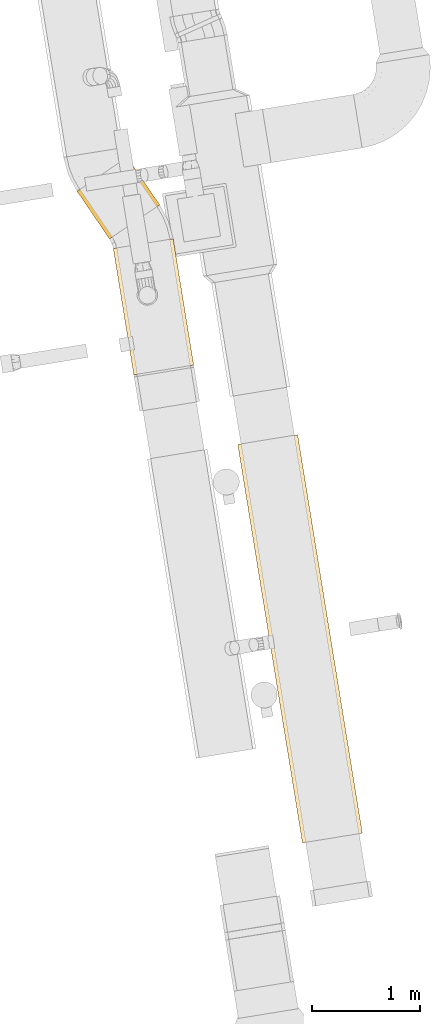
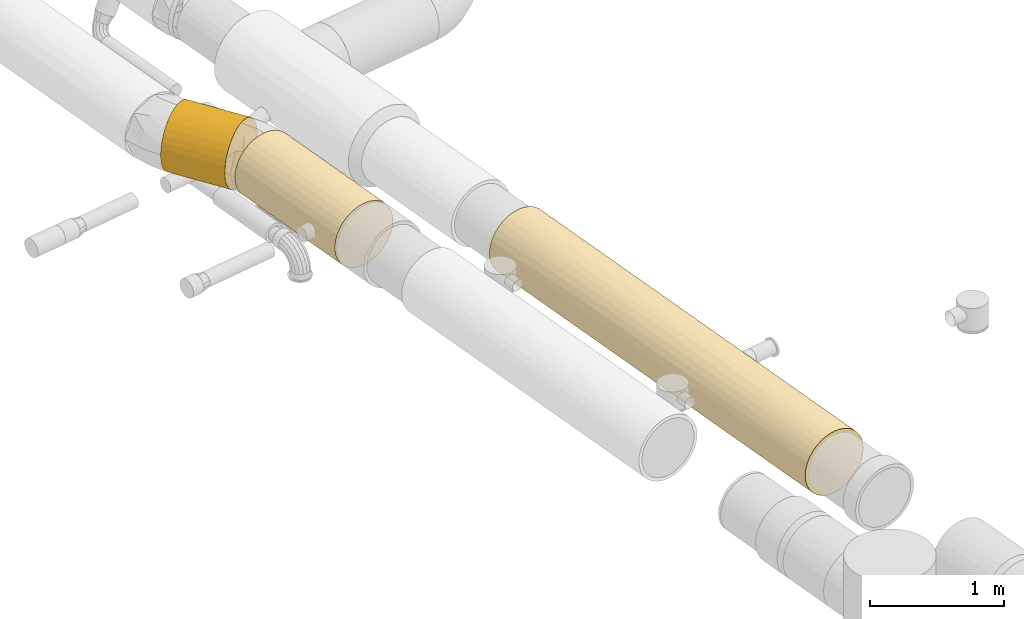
# One storey, part 3 of 39: 3 coverings.
"""IFC2X3 building model written with IfcOpenShell, lengths in millimetres."""

from ifc_helpers import new_model, entity, si_unit, converted_unit, derived_unit, direction, frame, origin, origin_with_axes, place, context, subcontext, project, spatial, faceted_brep, type_object, element, save


model = new_model("IFC2X3")

# Units and contexts
plan_context = context("Plan", 3, precision=1e-05, world=origin_with_axes())
model_context = context("Model", 3, precision=0.01, world=origin(), true_north=direction((6.12323399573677e-17, 1.0)))
body_context = subcontext(model_context, "Body", "Model", "MODEL_VIEW")
ifc_project = project(units=[converted_unit("PLANEANGLEUNIT", "DEGREE", entity("IfcPositiveLengthMeasure", 0.0174532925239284), si_unit("PLANEANGLEUNIT", "RADIAN"), dimensions=[0, 0, 0, 0, 0, 0, 0]), si_unit("AREAUNIT", "SQUARE_METRE"), si_unit("LENGTHUNIT", "METRE", prefix="MILLI"), si_unit("MASSUNIT", "GRAM", prefix="KILO"), si_unit("POWERUNIT", "WATT"), si_unit("PRESSUREUNIT", "PASCAL", prefix="KILO"), si_unit("FORCEUNIT", "NEWTON", prefix="KILO"), si_unit("ELECTRICVOLTAGEUNIT", "VOLT"), si_unit("ELECTRICCURRENTUNIT", "AMPERE"), si_unit("THERMODYNAMICTEMPERATUREUNIT", "DEGREE_CELSIUS"), si_unit("TIMEUNIT", "SECOND"), si_unit("VOLUMEUNIT", "CUBIC_METRE"), derived_unit("LINEARVELOCITYUNIT", [(si_unit("LENGTHUNIT", "METRE"), 1), (si_unit("TIMEUNIT", "SECOND"), -1)]), derived_unit("VOLUMETRICFLOWRATEUNIT", [(si_unit("VOLUMEUNIT", "CUBIC_METRE"), 1), (si_unit("TIMEUNIT", "SECOND"), -1)]), derived_unit("THERMALTRANSMITTANCEUNIT", [(si_unit("POWERUNIT", "WATT"), 1), (si_unit("THERMODYNAMICTEMPERATUREUNIT", "KELVIN"), -1), (si_unit("AREAUNIT", "SQUARE_METRE"), -1)]), derived_unit("SOUNDPRESSUREUNIT", [(si_unit("PRESSUREUNIT", "PASCAL"), 1)])], contexts=[model_context, plan_context])

# Site, building, storey
site_placement = place(None, frame((-0.00071070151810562, 0.00438415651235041, 0.0), z_axis=(0.0, 0.0, 1.0), x_axis=(-0.160236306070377, 0.987078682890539, 0.0)))
site = spatial("IfcSite", under=ifc_project, at=site_placement, Name="Default", CompositionType="ELEMENT")
building_placement = place(site_placement, origin_with_axes())
building = spatial("IfcBuilding", under=site, at=building_placement, CompositionType="ELEMENT")
storey_placement = place(building_placement, frame((0.0, 0.0, 58999.9999999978), z_axis=(0.0, 0.0, 1.0), x_axis=(1.0, 0.0, 0.0)))
storey = spatial("IfcBuildingStorey", under=building, at=storey_placement, Name="Nivå F", CompositionType="ELEMENT", Elevation=58999.9999999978)

# Coverings
covering_type = type_object("IfcCoveringType", Name="Duct Insulation:EI 60-30", PredefinedType="INSULATION")
covering_1_placement = place(storey_placement, frame((766821.119644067, -503621.603887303, 2848.40426923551), z_axis=(0.0, 0.0, 1.0), x_axis=(1.0, 0.0, 0.0)))
element("IfcCovering", 1, at=covering_1_placement, inside=storey, type_object=covering_type, Name="Duct Insulation:EI 60-30", ObjectType="Duct Insulation:EI 60-30", PredefinedType="INSULATION", context=body_context, shape_type="Brep", body=[
    faceted_brep([(0.0, 48.7837807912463, 126.035606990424), (0.0, 22.9090031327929, 174.443911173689), (0.0, 6.97539372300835, 226.969982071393), (0.0, 1.59527223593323, 281.595272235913), (0.0, 6.97539372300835, 336.220562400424), (0.0, 22.9090031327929, 388.746633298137), (0.0, 48.7837807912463, 437.154937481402), (0.0, 83.6053735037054, 479.585170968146), (0.0, 126.035606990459, 514.406763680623), (0.0, 174.443911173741, 540.281541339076), (0.0, 226.969982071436, 556.215150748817), (0.0, 281.595272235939, 561.59527223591), (0.0, 336.220562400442, 556.215150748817), (0.0, 388.746633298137, 540.281541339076), (0.0, 437.154937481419, 514.406763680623), (0.0, 479.585170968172, 479.585170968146), (0.0, 514.406763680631, 437.154937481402), (0.0, 540.281541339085, 388.746633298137), (0.0, 556.215150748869, 336.220562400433), (0.0, 561.595272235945, 281.595272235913), (0.0, 556.215150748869, 226.969982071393), (0.0, 540.281541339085, 174.443911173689), (0.0, 514.406763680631, 126.035606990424), (0.0, 479.585170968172, 83.6053735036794), (0.0, 437.154937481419, 48.783780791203), (0.0, 388.746633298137, 22.9090031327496), (0.0, 336.220562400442, 6.97539372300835), (0.0, 281.595272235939, 1.5952722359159), (0.0, 226.969982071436, 6.97539372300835), (0.0, 174.443911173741, 22.9090031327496), (0.0, 126.035606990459, 48.783780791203), (0.0, 83.6053735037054, 83.6053735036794), (3721.2499999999, 22.9090031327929, 388.746633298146), (3721.2499999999, 6.97539372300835, 336.220562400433), (3721.2499999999, 1.59527223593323, 281.595272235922), (3721.2499999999, 6.97539372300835, 226.969982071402), (3721.2499999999, 22.9090031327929, 174.443911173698), (3721.2499999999, 48.7837807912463, 126.035606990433), (3721.2499999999, 83.6053735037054, 83.6053735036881), (3721.2499999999, 126.035606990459, 48.7837807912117), (3721.2499999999, 174.443911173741, 22.9090031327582), (3721.2499999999, 226.969982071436, 6.97539372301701), (3721.2499999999, 281.595272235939, 1.59527223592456), (3721.2499999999, 336.220562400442, 6.97539372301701), (3721.2499999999, 388.746633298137, 22.9090031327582), (3721.2499999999, 437.154937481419, 48.7837807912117), (3721.2499999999, 479.585170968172, 83.6053735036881), (3721.2499999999, 514.406763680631, 126.035606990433), (3721.2499999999, 540.281541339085, 174.443911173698), (3721.2499999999, 556.215150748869, 226.969982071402), (3721.2499999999, 561.595272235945, 281.595272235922), (3721.2499999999, 556.215150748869, 336.220562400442), (3721.2499999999, 540.281541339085, 388.746633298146), (3721.2499999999, 514.406763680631, 437.15493748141), (3721.2499999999, 479.585170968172, 479.585170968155), (3721.2499999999, 437.154937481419, 514.406763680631), (3721.2499999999, 388.746633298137, 540.281541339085), (3721.2499999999, 336.220562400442, 556.215150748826), (3721.2499999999, 281.595272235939, 561.595272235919), (3721.2499999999, 226.969982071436, 556.215150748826), (3721.2499999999, 174.443911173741, 540.281541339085), (3721.2499999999, 126.035606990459, 514.406763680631), (3721.2499999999, 83.6053735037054, 479.585170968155), (3721.2499999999, 48.7837807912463, 437.15493748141), (1021.31308704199, 549.538565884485, 200.315561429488), (1384.15433010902, 561.595272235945, 281.595272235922), (1968.42825523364, 554.408031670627, 218.56196128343), (692.077165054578, 561.595272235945, 281.595272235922), (817.757672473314, 362.874981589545, 13.6519781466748), (692.077177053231, 281.595272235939, 1.5952722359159), (2841.50995897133, 553.570094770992, 215.039311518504), (2699.09067671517, 528.53322574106, 149.604184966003), (1384.15435410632, 281.595272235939, 1.5952722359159), (1168.55290291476, 281.595272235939, 1.5952722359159), (991.208389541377, 528.42696877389, 149.405584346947), (2847.09679138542, 349.273064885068, 9.89743201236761), (3029.17153991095, 281.595272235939, 1.5952722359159), (2552.70217705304, 281.595272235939, 1.5952722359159), (2579.82859564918, 413.586358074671, 34.6573179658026), (2771.91487959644, 483.230905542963, 87.3195110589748), (899.696889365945, 498.038198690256, 103.965152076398), (1860.62500055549, 498.03819831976, 103.965151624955), (1793.47587816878, 455.500831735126, 62.1485671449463), (1057.08565661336, 457.218431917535, 63.5207304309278), (662.545203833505, 416.171212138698, 36.0564435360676), (1389.54662866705, 413.586358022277, 34.6573179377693), (1655.8649214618, 533.474208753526, 159.296452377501), (2552.70216505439, 561.595272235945, 281.595272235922), (1702.58995833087, 349.550022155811, 9.96656984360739), (2337.10580582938, 281.595272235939, 1.5952722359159), (2699.93689830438, 200.31556239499, 13.6519782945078), (665.54879138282, 106.401013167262, 63.1760157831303), (879.740031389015, 215.039312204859, 9.62044953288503), (3028.92397775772, 60.3255127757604, 110.015280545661), (1860.62500000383, 103.965152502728, 65.1523454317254), (2065.38507901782, 159.296453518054, 29.7163351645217), (2730.0416080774, 149.405585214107, 34.7635752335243), (1752.82173521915, 218.561961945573, 8.7825126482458), (1538.01670648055, 66.7303492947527, 102.059579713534), (817.757673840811, 13.6519782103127, 200.315562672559), (692.077179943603, 1.59527223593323, 281.595272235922), (2309.33222162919, 67.6252346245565, 100.993990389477), (2579.8285959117, 34.6573181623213, 149.604186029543), (1022.15932661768, 149.604185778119, 34.6573182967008), (2821.55310889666, 103.965152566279, 65.1523453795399), (1389.54663092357, 34.6573181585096, 149.604186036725), (817.757674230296, 65.1523452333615, 103.965152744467), (617.855782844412, 34.6573181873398, 149.604185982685), (2847.09679176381, 9.89743207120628, 213.917479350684), (1702.5899576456, 9.9665699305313, 213.640521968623), (3029.17282020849, 1.59527223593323, 281.595272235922), (2552.70217994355, 1.59527223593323, 281.595272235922), (1384.15435988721, 1.59527223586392, 281.595272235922), (2337.09564041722, 1.59527223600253, 281.595272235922), (1168.54782020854, 1.59527223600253, 281.595272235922), (2699.9368983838, 13.6519782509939, 362.874981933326), (665.54879094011, 63.1760157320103, 456.789531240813), (879.740027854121, 9.62044951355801, 348.151232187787), (3028.92397732, 110.01528038, 502.865031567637), (1860.62499999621, 65.1523453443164, 459.225391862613), (2065.38508354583, 29.7163351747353, 403.894090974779), (2730.0416120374, 34.7635751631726, 413.784959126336), (1752.82173030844, 8.78251274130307, 344.628582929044), (1538.0167055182, 102.059579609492, 496.460195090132), (817.75767350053, 200.315562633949, 549.538566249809), (692.077181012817, 281.595272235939, 561.59527223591), (2309.33221978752, 100.993990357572, 495.565309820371), (2579.82859551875, 149.604185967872, 528.533226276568), (1022.15932625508, 34.6573182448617, 413.586358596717), (2821.55310873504, 65.1523453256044, 459.225391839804), (1389.54663036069, 149.604185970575, 528.533226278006), (817.757673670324, 103.965152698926, 498.038199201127), (617.85578233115, 149.60418594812, 528.533226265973), (2847.09679222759, 213.917479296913, 553.293112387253), (1702.58995599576, 213.64052187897, 553.223974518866), (3029.17281905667, 281.595272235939, 561.59527223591), (2552.70218101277, 281.595272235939, 561.59527223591), (1384.15436202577, 281.595272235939, 561.59527223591), (2337.09563811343, 281.595272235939, 561.59527223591), (1168.54781905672, 281.595272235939, 561.59527223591), (2699.93689848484, 362.874981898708, 549.538566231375), (665.548790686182, 456.78953122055, 500.014528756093), (879.740026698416, 348.151232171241, 553.570094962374), (3028.92397707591, 502.865031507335, 453.175264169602), (1860.62499999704, 459.225391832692, 498.038199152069), (2065.38508528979, 403.89409099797, 533.474209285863), (2730.04161345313, 413.784959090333, 528.426969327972), (1752.82172858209, 344.628583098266, 554.408031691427), (1538.01670496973, 496.460195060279, 461.130964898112), (817.757673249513, 549.538566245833, 362.874981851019), (2309.33221874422, 495.565309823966, 462.19655411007), (2579.8285952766, 528.533226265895, 413.586358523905), (1022.15932608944, 413.586358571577, 528.533226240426), (2821.55310868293, 459.225391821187, 498.038199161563), (1389.54662996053, 528.533226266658, 413.586358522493), (817.757673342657, 498.038199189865, 459.225391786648), (617.855782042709, 528.533226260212, 413.586358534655), (2847.09679250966, 553.29311238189, 349.27306519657), (1702.58995499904, 553.22397450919, 349.550022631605)], [[[0, 1, 2, 3, 4, 5, 6, 7, 8, 9, 10, 11, 12, 13, 14, 15, 16, 17, 18, 19, 20, 21, 22, 23, 24, 25, 26, 27, 28, 29, 30, 31]], [[32, 33, 34, 35, 36, 37, 38, 39, 40, 41, 42, 43, 44, 45, 46, 47, 48, 49, 50, 51, 52, 53, 54, 55, 56, 57, 58, 59, 60, 61, 62, 63]], [[64, 65, 66]], [[20, 67, 64]], [[20, 64, 21]], [[68, 69, 26]], [[25, 68, 26]], [[49, 70, 50]], [[70, 48, 71]], [[47, 71, 48]], [[68, 72, 73, 69]], [[74, 21, 64]], [[75, 42, 76, 77]], [[45, 78, 79]], [[71, 47, 79]], [[69, 27, 26]], [[80, 23, 22]], [[46, 79, 47]], [[44, 78, 45]], [[81, 82, 83]], [[79, 81, 71]], [[71, 66, 70]], [[22, 21, 74]], [[84, 25, 24]], [[84, 83, 85]], [[75, 43, 42]], [[44, 43, 75]], [[83, 23, 80]], [[86, 74, 64]], [[66, 65, 87]], [[85, 68, 84]], [[82, 85, 83]], [[66, 86, 64]], [[88, 68, 85]], [[88, 72, 68]], [[78, 75, 88]], [[78, 88, 85]], [[88, 77, 89, 72]], [[70, 66, 87]], [[86, 71, 81]], [[50, 70, 87]], [[48, 70, 49]], [[45, 79, 46]], [[82, 79, 78]], [[71, 86, 66]], [[74, 81, 80]], [[25, 84, 68]], [[24, 23, 83]], [[83, 84, 24]], [[81, 83, 80]], [[79, 82, 81]], [[78, 85, 82]], [[81, 74, 86]], [[74, 80, 22]], [[88, 75, 77]], [[44, 75, 78]], [[67, 20, 19]], [[67, 65, 64]], [[41, 40, 90]], [[31, 30, 91]], [[92, 27, 69, 73]], [[38, 37, 93]], [[94, 95, 96]], [[97, 92, 73]], [[39, 96, 40]], [[41, 90, 76]], [[98, 91, 94]], [[90, 97, 89]], [[99, 100, 2]], [[101, 93, 102]], [[30, 29, 103]], [[39, 38, 104]], [[30, 103, 91]], [[98, 105, 106]], [[102, 93, 36]], [[103, 97, 95]], [[101, 102, 105]], [[105, 98, 101]], [[96, 39, 104]], [[107, 99, 1]], [[107, 105, 99]], [[108, 35, 34]], [[36, 35, 108]], [[31, 106, 0]], [[100, 3, 2]], [[76, 42, 41]], [[107, 0, 106]], [[1, 99, 2]], [[102, 108, 109]], [[92, 29, 28]], [[97, 73, 72, 89]], [[108, 34, 110, 111]], [[109, 99, 105]], [[109, 112, 99]], [[102, 109, 105]], [[109, 111, 113, 112]], [[95, 97, 90]], [[92, 97, 103]], [[29, 92, 103]], [[27, 92, 28]], [[96, 95, 90]], [[103, 95, 94]], [[91, 98, 106]], [[98, 94, 101]], [[94, 104, 101]], [[93, 37, 36]], [[101, 104, 93]], [[38, 93, 104]], [[40, 96, 90]], [[94, 96, 104]], [[109, 108, 111]], [[36, 108, 102]], [[90, 89, 77, 76]], [[94, 91, 103]], [[31, 91, 106]], [[0, 107, 1]], [[105, 107, 106]], [[99, 112, 114, 100]], [[33, 32, 115]], [[7, 6, 116]], [[117, 3, 100, 114]], [[62, 61, 118]], [[119, 120, 121]], [[122, 117, 114]], [[63, 121, 32]], [[33, 115, 110]], [[123, 116, 119]], [[115, 122, 113]], [[124, 125, 10]], [[126, 118, 127]], [[6, 5, 128]], [[63, 62, 129]], [[6, 128, 116]], [[123, 130, 131]], [[127, 118, 60]], [[128, 122, 120]], [[126, 127, 130]], [[130, 123, 126]], [[121, 63, 129]], [[132, 124, 9]], [[132, 130, 124]], [[133, 59, 58]], [[60, 59, 133]], [[7, 131, 8]], [[125, 11, 10]], [[110, 34, 33]], [[132, 8, 131]], [[9, 124, 10]], [[127, 133, 134]], [[117, 5, 4]], [[122, 114, 112, 113]], [[133, 58, 135, 136]], [[134, 124, 130]], [[134, 137, 124]], [[127, 134, 130]], [[134, 136, 138, 137]], [[120, 122, 115]], [[117, 122, 128]], [[5, 117, 128]], [[3, 117, 4]], [[121, 120, 115]], [[128, 120, 119]], [[116, 123, 131]], [[123, 119, 126]], [[119, 129, 126]], [[118, 61, 60]], [[126, 129, 118]], [[62, 118, 129]], [[32, 121, 115]], [[119, 121, 129]], [[134, 133, 136]], [[60, 133, 127]], [[115, 113, 111, 110]], [[119, 116, 128]], [[7, 116, 131]], [[8, 132, 9]], [[130, 132, 131]], [[124, 137, 139, 125]], [[57, 56, 140]], [[15, 14, 141]], [[142, 11, 125, 139]], [[54, 53, 143]], [[144, 145, 146]], [[147, 142, 139]], [[55, 146, 56]], [[57, 140, 135]], [[148, 141, 144]], [[140, 147, 138]], [[149, 67, 18]], [[150, 143, 151]], [[14, 13, 152]], [[55, 54, 153]], [[14, 152, 141]], [[148, 154, 155]], [[151, 143, 52]], [[152, 147, 145]], [[150, 151, 154]], [[154, 148, 150]], [[146, 55, 153]], [[156, 149, 17]], [[156, 154, 149]], [[157, 51, 50]], [[52, 51, 157]], [[15, 155, 16]], [[67, 19, 18]], [[135, 58, 57]], [[156, 16, 155]], [[17, 149, 18]], [[151, 157, 158]], [[142, 13, 12]], [[147, 139, 137, 138]], [[50, 87, 157]], [[158, 149, 154]], [[158, 65, 149]], [[151, 158, 154]], [[87, 65, 158]], [[145, 147, 140]], [[142, 147, 152]], [[13, 142, 152]], [[11, 142, 12]], [[146, 145, 140]], [[152, 145, 144]], [[141, 148, 155]], [[148, 144, 150]], [[144, 153, 150]], [[143, 53, 52]], [[150, 153, 143]], [[54, 143, 153]], [[56, 146, 140]], [[144, 146, 153]], [[158, 157, 87]], [[52, 157, 151]], [[140, 138, 136, 135]], [[144, 141, 152]], [[15, 141, 155]], [[16, 156, 17]], [[154, 156, 155]], [[149, 65, 67]]]),
])
covering_2_placement = place(storey_placement, frame((771329.369644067, -502778.429977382, 2848.40472776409), z_axis=(0.0, 0.0, 1.0), x_axis=(1.0, 0.0, 0.0)))
element("IfcCovering", 2, at=covering_2_placement, inside=storey, type_object=covering_type, Name="Duct Insulation:EI 60-30", ObjectType="Duct Insulation:EI 60-30", PredefinedType="INSULATION", context=body_context, shape_type="Brep", body=[
    faceted_brep([(0.0, 48.7837807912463, 126.035606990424), (0.0, 22.9090031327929, 174.443911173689), (0.0, 6.97539372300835, 226.969982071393), (0.0, 1.59527223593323, 281.595272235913), (0.0, 6.97539372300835, 336.220562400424), (0.0, 22.9090031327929, 388.746633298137), (0.0, 48.7837807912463, 437.154937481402), (0.0, 83.6053735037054, 479.585170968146), (0.0, 126.035606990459, 514.406763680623), (0.0, 174.443911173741, 540.281541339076), (0.0, 226.969982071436, 556.215150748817), (0.0, 281.595272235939, 561.59527223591), (0.0, 336.220562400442, 556.215150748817), (0.0, 388.746633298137, 540.281541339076), (0.0, 437.154937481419, 514.406763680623), (0.0, 479.585170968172, 479.585170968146), (0.0, 514.406763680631, 437.154937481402), (0.0, 540.281541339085, 388.746633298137), (0.0, 556.215150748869, 336.220562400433), (0.0, 561.595272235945, 281.595272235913), (0.0, 556.215150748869, 226.969982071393), (0.0, 540.281541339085, 174.443911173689), (0.0, 514.406763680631, 126.035606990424), (0.0, 479.585170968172, 83.6053735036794), (0.0, 437.154937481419, 48.783780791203), (0.0, 388.746633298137, 22.9090031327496), (0.0, 336.220562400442, 6.97539372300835), (0.0, 281.595272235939, 1.5952722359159), (0.0, 226.969982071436, 6.97539372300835), (0.0, 174.443911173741, 22.9090031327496), (0.0, 126.035606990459, 48.783780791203), (0.0, 83.6053735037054, 83.6053735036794), (1179.50227023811, 22.9090031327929, 388.746633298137), (1179.50227023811, 6.97539372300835, 336.220562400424), (1179.50227023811, 1.59527223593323, 281.595272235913), (1179.50227023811, 6.97539372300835, 226.969982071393), (1179.50227023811, 22.9090031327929, 174.443911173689), (1179.50227023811, 48.7837807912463, 126.035606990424), (1179.50227023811, 83.6053735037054, 83.6053735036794), (1179.50227023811, 126.035606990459, 48.783780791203), (1179.50227023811, 174.443911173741, 22.9090031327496), (1179.50227023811, 226.969982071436, 6.97539372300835), (1179.50227023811, 281.595272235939, 1.5952722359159), (1179.50227023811, 336.220562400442, 6.97539372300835), (1179.50227023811, 388.746633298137, 22.9090031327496), (1179.50227023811, 437.154937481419, 48.783780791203), (1179.50227023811, 479.585170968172, 83.6053735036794), (1179.50227023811, 514.406763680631, 126.035606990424), (1179.50227023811, 540.281541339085, 174.443911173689), (1179.50227023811, 556.215150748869, 226.969982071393), (1179.50227023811, 561.595272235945, 281.595272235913), (1179.50227023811, 556.215150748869, 336.220562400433), (1179.50227023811, 540.281541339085, 388.746633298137), (1179.50227023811, 514.406763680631, 437.154937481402), (1179.50227023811, 479.585170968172, 479.585170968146), (1179.50227023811, 437.154937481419, 514.406763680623), (1179.50227023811, 388.746633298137, 540.281541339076), (1179.50227023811, 336.220562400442, 556.215150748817), (1179.50227023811, 281.595272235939, 561.59527223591), (1179.50227023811, 226.969982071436, 556.215150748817), (1179.50227023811, 174.443911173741, 540.281541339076), (1179.50227023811, 126.035606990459, 514.406763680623), (1179.50227023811, 83.6053735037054, 479.585170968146), (1179.50227023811, 48.7837807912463, 437.154937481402)], [[[0, 1, 2, 3, 4, 5, 6, 7, 8, 9, 10, 11, 12, 13, 14, 15, 16, 17, 18, 19, 20, 21, 22, 23, 24, 25, 26, 27, 28, 29, 30, 31]], [[32, 33, 34, 35, 36, 37, 38, 39, 40, 41, 42, 43, 44, 45, 46, 47, 48, 49, 50, 51, 52, 53, 54, 55, 56, 57, 58, 59, 60, 61, 62, 63]], [[50, 49, 20, 19]], [[49, 48, 21, 20]], [[22, 21, 48, 47]], [[47, 46, 23, 22]], [[25, 24, 45, 44]], [[26, 25, 44, 43]], [[27, 26, 43, 42]], [[46, 45, 24, 23]], [[28, 27, 42, 41]], [[29, 28, 41, 40]], [[30, 29, 40, 39]], [[39, 38, 31, 30]], [[1, 0, 37, 36]], [[2, 1, 36, 35]], [[3, 2, 35, 34]], [[38, 37, 0, 31]], [[4, 3, 34, 33]], [[5, 4, 33, 32]], [[6, 5, 32, 63]], [[63, 62, 7, 6]], [[9, 8, 61, 60]], [[10, 9, 60, 59]], [[11, 10, 59, 58]], [[62, 61, 8, 7]], [[12, 11, 58, 57]], [[13, 12, 57, 56]], [[14, 13, 56, 55]], [[55, 54, 15, 14]], [[17, 16, 53, 52]], [[18, 17, 52, 51]], [[19, 18, 51, 50]], [[54, 53, 16, 15]]]),
])
covering_3_placement = place(storey_placement, frame((772600.252659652, -502705.350051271, 2848.40472776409), z_axis=(0.0, 0.0, 1.0), x_axis=(1.0, 0.0, 0.0)))
element("IfcCovering", 3, at=covering_3_placement, inside=storey, type_object=covering_type, Name="Duct Insulation:EI 60-30", ObjectType="Duct Insulation:EI 60-30", PredefinedType="INSULATION", context=body_context, shape_type="Brep", body=[
    faceted_brep([(10.602844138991, 489.81083269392, 388.746633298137), (3.86900982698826, 504.251586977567, 336.220562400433), (1.59527223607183, 509.12763297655, 281.595272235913), (3.86900982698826, 504.251586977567, 226.969982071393), (10.602844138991, 489.81083269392, 174.443911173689), (21.5379976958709, 466.360320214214, 126.035606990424), (36.2542386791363, 434.801239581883, 83.6053735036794), (54.1860302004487, 396.34638856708, 48.783780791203), (74.6442635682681, 352.473565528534, 22.9090031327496), (96.8427403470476, 304.868778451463, 6.97539372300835), (119.928385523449, 255.361452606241, 1.5952722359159), (143.01403069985, 205.85412676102, 6.97539372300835), (165.212507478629, 158.249339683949, 22.9090031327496), (185.670740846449, 114.376516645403, 48.783780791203), (203.602532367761, 75.9216656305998, 83.6053735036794), (218.318773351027, 44.3625849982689, 126.035606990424), (229.253926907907, 20.9120725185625, 174.443911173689), (235.987761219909, 6.471318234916, 226.969982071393), (238.261498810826, 1.59527223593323, 281.595272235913), (235.987761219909, 6.471318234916, 336.220562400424), (229.253926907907, 20.9120725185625, 388.746633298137), (218.318773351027, 44.3625849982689, 437.154937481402), (203.6025323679, 75.9216656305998, 479.585170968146), (185.670740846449, 114.376516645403, 514.406763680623), (165.212507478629, 158.249339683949, 540.281541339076), (143.01403069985, 205.85412676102, 556.215150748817), (119.928385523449, 255.361452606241, 561.59527223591), (96.8427403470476, 304.868778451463, 556.215150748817), (74.6442635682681, 352.473565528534, 540.281541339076), (54.1860302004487, 396.34638856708, 514.406763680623), (36.2542386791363, 434.801239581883, 479.585170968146), (21.5379976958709, 466.360320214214, 437.154937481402), (502.56759932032, 690.668107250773, 437.154937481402), (517.283840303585, 659.109026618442, 479.585170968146), (535.215631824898, 620.654175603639, 514.406763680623), (555.673865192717, 576.781352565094, 540.281541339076), (577.872341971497, 529.176565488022, 556.215150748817), (600.957987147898, 479.669239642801, 561.59527223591), (624.043632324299, 430.161913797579, 556.215150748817), (646.242109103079, 382.557126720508, 540.281541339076), (666.700342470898, 338.684303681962, 514.406763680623), (684.632133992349, 300.229452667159, 479.585170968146), (699.348374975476, 268.670372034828, 437.154937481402), (710.283528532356, 245.219859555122, 388.746633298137), (717.017362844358, 230.779105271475, 336.220562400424), (719.291100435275, 225.903059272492, 281.595272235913), (717.017362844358, 230.779105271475, 226.969982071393), (710.283528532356, 245.219859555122, 174.443911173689), (699.348374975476, 268.670372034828, 126.035606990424), (684.63213399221, 300.229452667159, 83.6053735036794), (666.700342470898, 338.684303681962, 48.783780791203), (646.242109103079, 382.557126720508, 22.9090031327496), (624.043632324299, 430.161913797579, 6.97539372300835), (600.957987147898, 479.669239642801, 1.5952722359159), (577.872341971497, 529.176565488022, 6.97539372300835), (555.673865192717, 576.781352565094, 22.9090031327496), (535.215631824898, 620.654175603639, 48.783780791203), (517.283840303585, 659.109026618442, 83.6053735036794), (502.56759932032, 690.668107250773, 126.035606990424), (491.63244576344, 714.11861973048, 174.443911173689), (484.898611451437, 728.559374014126, 226.969982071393), (482.624873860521, 733.435420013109, 281.595272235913), (484.898611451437, 728.559374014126, 336.220562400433), (491.63244576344, 714.11861973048, 388.746633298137)], [[[0, 1, 2, 3, 4, 5, 6, 7, 8, 9, 10, 11, 12, 13, 14, 15, 16, 17, 18, 19, 20, 21, 22, 23, 24, 25, 26, 27, 28, 29, 30, 31]], [[32, 33, 34, 35, 36, 37, 38, 39, 40, 41, 42, 43, 44, 45, 46, 47, 48, 49, 50, 51, 52, 53, 54, 55, 56, 57, 58, 59, 60, 61, 62, 63]], [[61, 60, 3, 2]], [[60, 59, 4, 3]], [[5, 4, 59, 58]], [[58, 57, 6, 5]], [[8, 7, 56, 55]], [[9, 8, 55, 54]], [[10, 9, 54, 53]], [[57, 56, 7, 6]], [[11, 10, 53, 52]], [[12, 11, 52, 51]], [[13, 12, 51, 50]], [[50, 49, 14, 13]], [[16, 15, 48, 47]], [[17, 16, 47, 46]], [[18, 17, 46, 45]], [[49, 48, 15, 14]], [[19, 18, 45, 44]], [[20, 19, 44, 43]], [[21, 20, 43, 42]], [[42, 41, 22, 21]], [[24, 23, 40, 39]], [[25, 24, 39, 38]], [[26, 25, 38, 37]], [[41, 40, 23, 22]], [[27, 26, 37, 36]], [[28, 27, 36, 35]], [[29, 28, 35, 34]], [[34, 33, 30, 29]], [[0, 31, 32, 63]], [[1, 0, 63, 62]], [[2, 1, 62, 61]], [[33, 32, 31, 30]]]),
])

save(model, "model.ifc")
